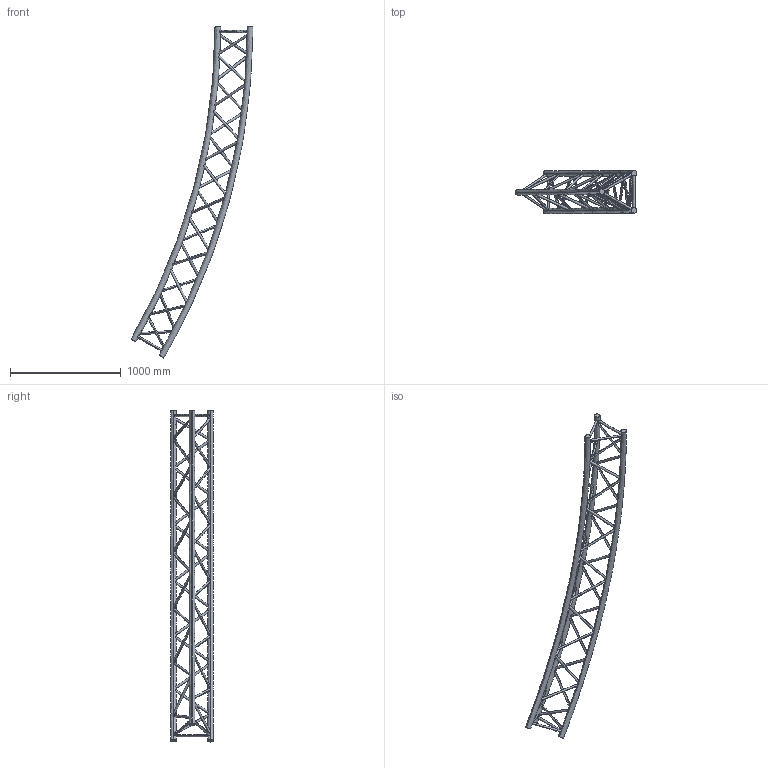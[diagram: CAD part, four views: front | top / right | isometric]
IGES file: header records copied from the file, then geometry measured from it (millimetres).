
Start section: SolidWorks IGES file using analytic representation for surfaces
Global section: file name: K:\BIBLIO\asd_biblio\SX390\Cercles\SXC39PI\SXC391200PI\SXC391200PI.IGS; native system: SolidWorks 2009; preprocessor: SolidWorks 2009; author: des3; date: 091021.133344; units: millimetre
Bounding box: 1099.9 x 387 x 3000 mm (x, y, z)
Surface area: 2342712.8 mm2 (no closed solid volume)
Topology: 0 solids, 0 shells, 96 faces, 6680 edges, 6680 vertices
Faces by surface type: revolution 84, bspline 12
